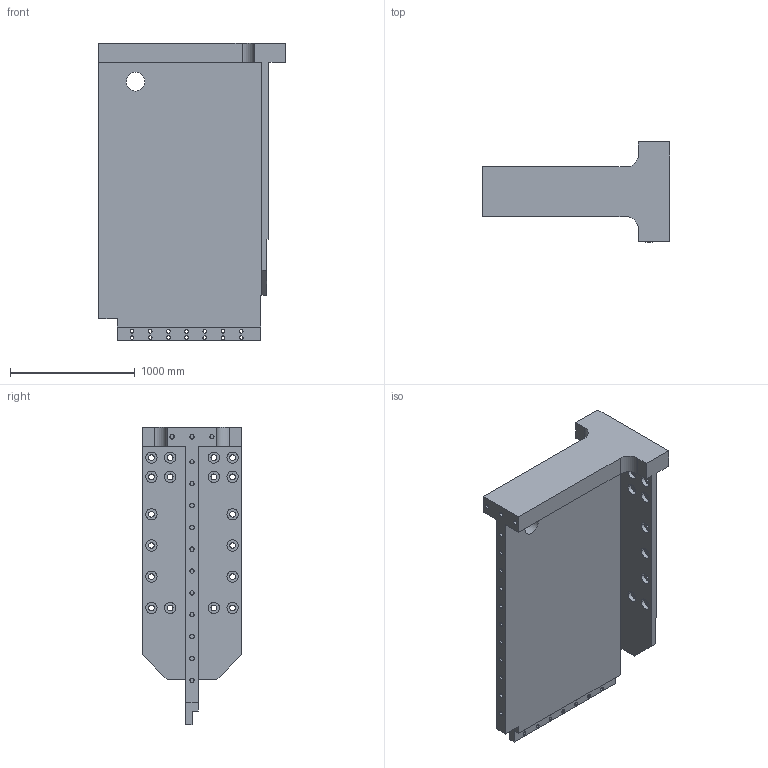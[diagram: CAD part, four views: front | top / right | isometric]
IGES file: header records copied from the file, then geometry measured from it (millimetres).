
Start section:  PTC IGES file: lower_gusset.igs
Global section: file name: lower_gusset.igs; native system: Pro/ENGINEER by Parametric Technology Corporation; preprocessor: 1999260; author: oshatz; organization: Unknown; date: 000922.101558; units: millimetre
Bounding box: 1501.51 x 800 x 2383.8 mm (x, y, z)
Surface area: 11547801.7 mm2 (no closed solid volume)
Topology: 0 solids, 0 shells, 288 faces, 1824 edges, 2004 vertices
Faces by surface type: revolution 204, bspline 84
